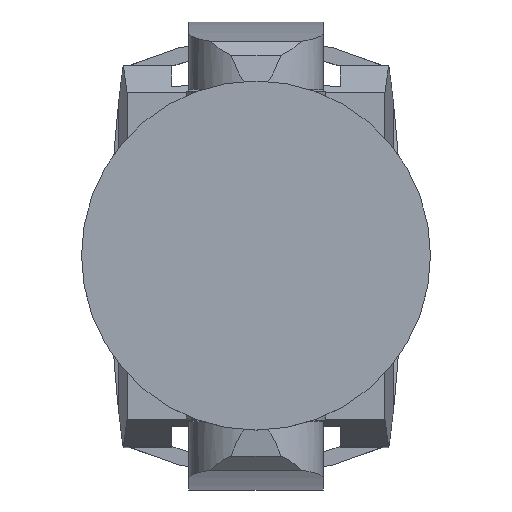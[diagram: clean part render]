
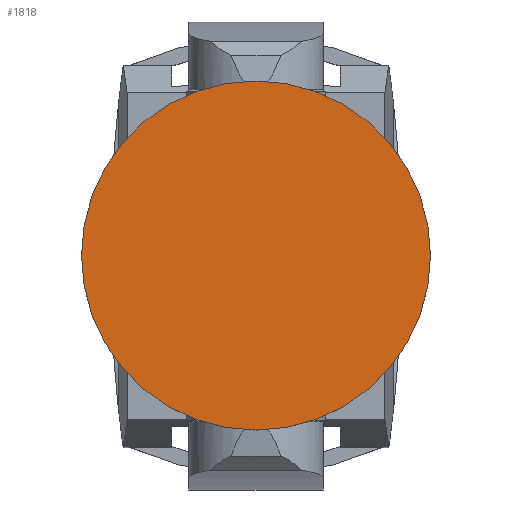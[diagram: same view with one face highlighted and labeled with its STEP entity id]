
A CAD part, top view. The second image highlights one B-rep face of the part: STEP entity #1818.
In plain terms, the highlighted planar face has unit normal (0, 0, 1).
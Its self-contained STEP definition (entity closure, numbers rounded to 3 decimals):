
#105=CIRCLE('',#2052,167.756);
#631=ORIENTED_EDGE('',*,*,#892,.F.);
#892=EDGE_CURVE('',#1068,#1068,#105,.T.);
#1068=VERTEX_POINT('',#3155);
#1477=EDGE_LOOP('',(#631));
#1627=FACE_BOUND('',#1477,.T.);
#1719=PLANE('',#2051);
#1818=ADVANCED_FACE('',(#1627),#1719,.F.);
#2051=AXIS2_PLACEMENT_3D('',#3153,#2580,#2581);
#2052=AXIS2_PLACEMENT_3D('',#3154,#2582,#2583);
#2580=DIRECTION('',(0.,0.,-1.));
#2581=DIRECTION('',(0.,1.,0.));
#2582=DIRECTION('',(0.,0.,-1.));
#2583=DIRECTION('',(0.,1.,0.));
#3153=CARTESIAN_POINT('',(0.,-167.756,501.064));
#3154=CARTESIAN_POINT('',(0.,0.,501.064));
#3155=CARTESIAN_POINT('',(0.,167.756,501.064));
